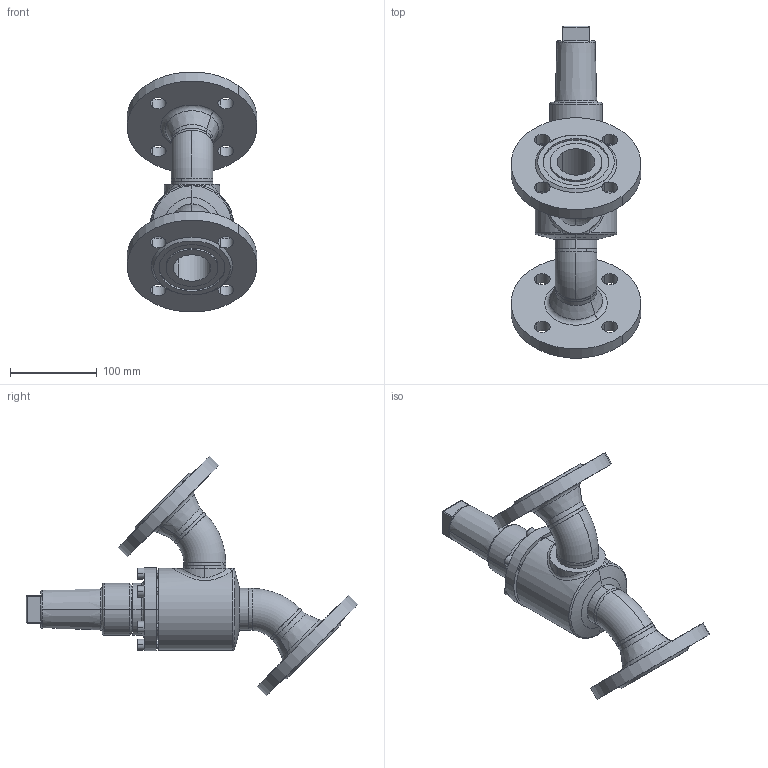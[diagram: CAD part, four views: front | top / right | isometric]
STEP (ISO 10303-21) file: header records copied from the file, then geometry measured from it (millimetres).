
FILE_DESCRIPTION (( 'STEP AP214' ), '1' );
FILE_NAME ('AVB16320D14-DN040_DIN-FL-N_PS40.STEP', '2006-04-27T12:21:19', ( 'Herr Grams' ), ( 'AWP GmbH' ), 'SwSTEP 2.0', 'SolidWorks 2002296', '' );
FILE_SCHEMA (( 'AUTOMOTIVE_DESIGN' ));
Length unit declared in the file: millimetre
Products named in the file (14): AVB16320D14-DN040_DIN-FL-N_PS40; AVB16300E15_Deck+Schr-DN40-50_Standard; Deckel16300E15-DN40-50_Standard; Zylinderschraube-DIN912_M 8x 25; Kappe16402_DN040-65_Standard; Gehäuse-kpl16320-DN040_DIN_PS40_Standard; Gehäuse-kpl16300-DN040_R1_Standard; Gehäuse16300-DN040_Standard; bead16300-Geh-040-2_Standard; bead16300-Geh-040-1_Standard; Rohrbogen 45°_R1-Fase_Rohrbogen-DN040-45°; Flansch-DIN2635-Nut_PS40_DIN-Flansch-DN040_PS40-Nut; bead16320-DN040-1_Standard; bead16320-DN040-2_Standard
Assembly tree (20 placements, depth 4):
  AVB16320D14-DN040_DIN-FL-N_PS40
    Kappe16402_DN040-65_Standard
    AVB16300E15_Deck+Schr-DN40-50_Standard
      Zylinderschraube-DIN912_M 8x 25  x6
      Deckel16300E15-DN40-50_Standard
    Gehäuse-kpl16320-DN040_DIN_PS40_Standard
      bead16320-DN040-2_Standard
      Flansch-DIN2635-Nut_PS40_DIN-Flansch-DN040_PS40-Nut  x2
      bead16320-DN040-1_Standard
      Gehäuse-kpl16300-DN040_R1_Standard
        Rohrbogen 45°_R1-Fase_Rohrbogen-DN040-45°  x2
        Gehäuse16300-DN040_Standard
        bead16300-Geh-040-1_Standard
        bead16300-Geh-040-2_Standard
Bounding box: 149.43 x 382.54 x 276.47 mm (x, y, z)
Volume: 1247155.7 mm3; surface area: 273364.4 mm2
Topology: 17 solids, 17 shells, 367 faces, 851 edges, 540 vertices
Faces by surface type: cylinder 133, plane 110, cone 68, torus 37, bspline 19
Entity records: 54437 total; most frequent: CARTESIAN_POINT 48172, DIRECTION 1162, ORIENTED_EDGE 1114, EDGE_CURVE 557, AXIS2_PLACEMENT_3D 495, VERTEX_POINT 354, EDGE_LOOP 283, CIRCLE 253
